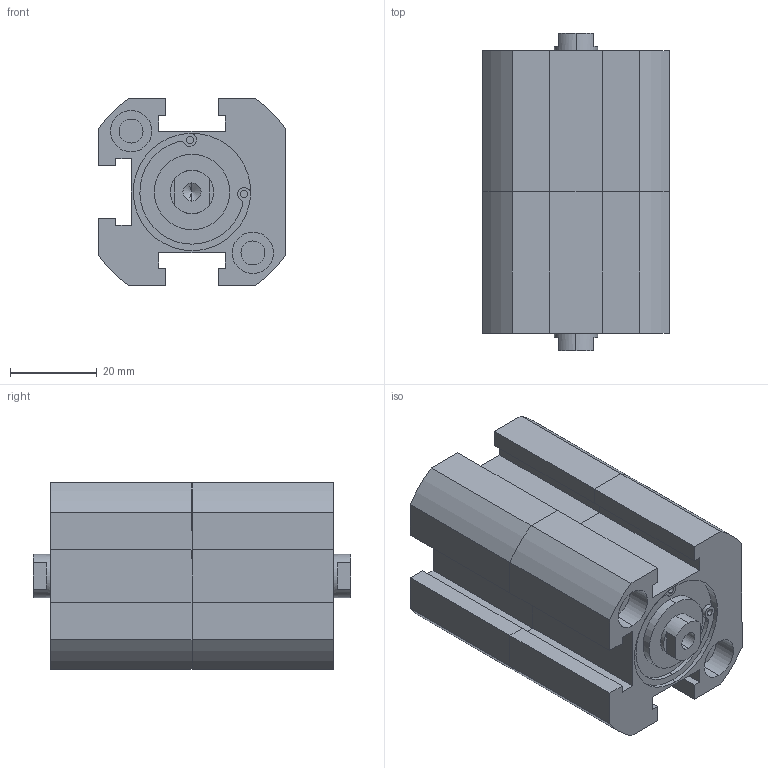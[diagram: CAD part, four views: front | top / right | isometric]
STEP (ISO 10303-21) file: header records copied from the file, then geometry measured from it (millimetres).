
FILE_DESCRIPTION (( 'STEP AP203' ), '1' );
FILE_NAME ('XCD7-25-10-10.STEP', '2016-08-05T01:38:54', ( '' ), ( '' ), 'SwSTEP 2.0', 'SolidWorks 2014', '' );
FILE_SCHEMA (( 'CONFIG_CONTROL_DESIGN' ));
Length unit declared in the file: millimetre
Products named in the file (2): XC#2-25-10; XCD7-25-10-10
Assembly tree (2 placements, depth 2):
  XCD7-25-10-10
    XC#2-25-10  x2
Bounding box: 43 x 73 x 43 mm (x, y, z)
Volume: 88006.3 mm3; surface area: 24802.8 mm2
Topology: 2 solids, 2 shells, 184 faces, 470 edges, 302 vertices
Faces by surface type: plane 88, cylinder 84, cone 12
Entity records: 2997 total; most frequent: DIRECTION 511, CARTESIAN_POINT 477, ORIENTED_EDGE 458, EDGE_CURVE 229, AXIS2_PLACEMENT_3D 185, VERTEX_POINT 151, LINE 141, VECTOR 141
